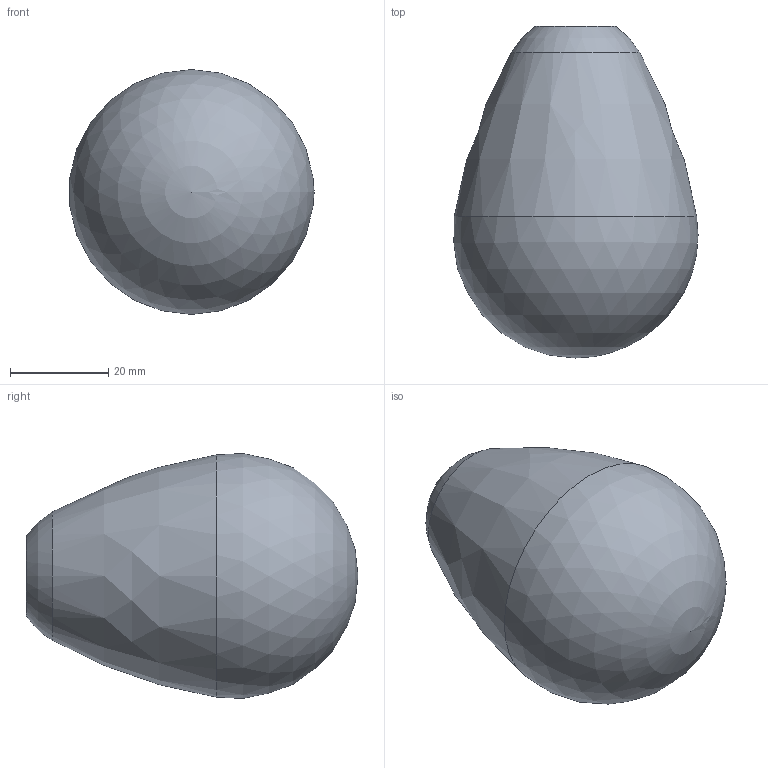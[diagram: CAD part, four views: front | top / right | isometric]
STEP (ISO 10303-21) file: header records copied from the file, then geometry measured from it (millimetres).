
FILE_DESCRIPTION(('STEP AP203'),'1');
FILE_NAME('Cat Threats Egg.step','2023-02-25T17:52:39',(' '),(' '),'Spatial InterOp 3D',' ',' ');
FILE_SCHEMA(('CONFIG_CONTROL_DESIGN'));
Length unit declared in the file: millimetre
Products named in the file (2): 1; 2
Bounding box: 49.77 x 67.66 x 49.91 mm (x, y, z)
Volume: 32246.5 mm3; surface area: 19526 mm2
Topology: 2 solids, 3 shells, 14 faces, 31 edges, 19 vertices
Faces by surface type: sphere 5, torus 4, bspline 3, plane 2
Entity records: 409 total; most frequent: CARTESIAN_POINT 119, DIRECTION 48, AXIS2_PLACEMENT_3D 24, FACE_OUTER_BOUND 22, EDGE_LOOP 22, ORIENTED_EDGE 22, ADVANCED_FACE 14, EDGE_CURVE 11
